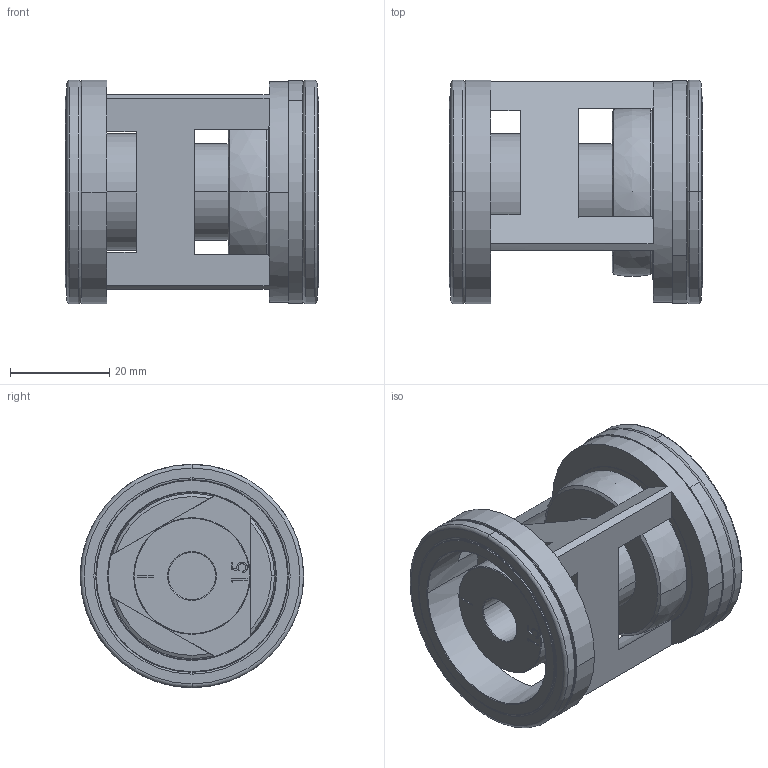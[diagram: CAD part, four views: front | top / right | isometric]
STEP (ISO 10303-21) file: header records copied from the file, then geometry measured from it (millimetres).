
FILE_DESCRIPTION (( 'STEP AP214' ), '1' );
FILE_NAME ('IDG-A-24-N015 DEFEATURED~.STEP', '2025-03-04T23:03:39', ( '' ), ( '' ), 'SwSTEP 2.0', 'SolidWorks 2023', '' );
FILE_SCHEMA (( 'AUTOMOTIVE_DESIGN' ));
Length unit declared in the file: inch
Products named in the file (1): IDG-A-24-N015 DEFEATURED~
Bounding box: 50.98 x 44.96 x 44.96 mm (x, y, z)
Volume: 36669.2 mm3; surface area: 16169.3 mm2
Topology: 1 solids, 2 shells, 149 faces, 413 edges, 268 vertices
Faces by surface type: cylinder 49, plane 47, cone 18, torus 18, bspline 15, sphere 2
Entity records: 8279 total; most frequent: CARTESIAN_POINT 4535, ORIENTED_EDGE 816, DIRECTION 759, EDGE_CURVE 408, AXIS2_PLACEMENT_3D 298, VERTEX_POINT 265, EDGE_LOOP 167, LINE 163
